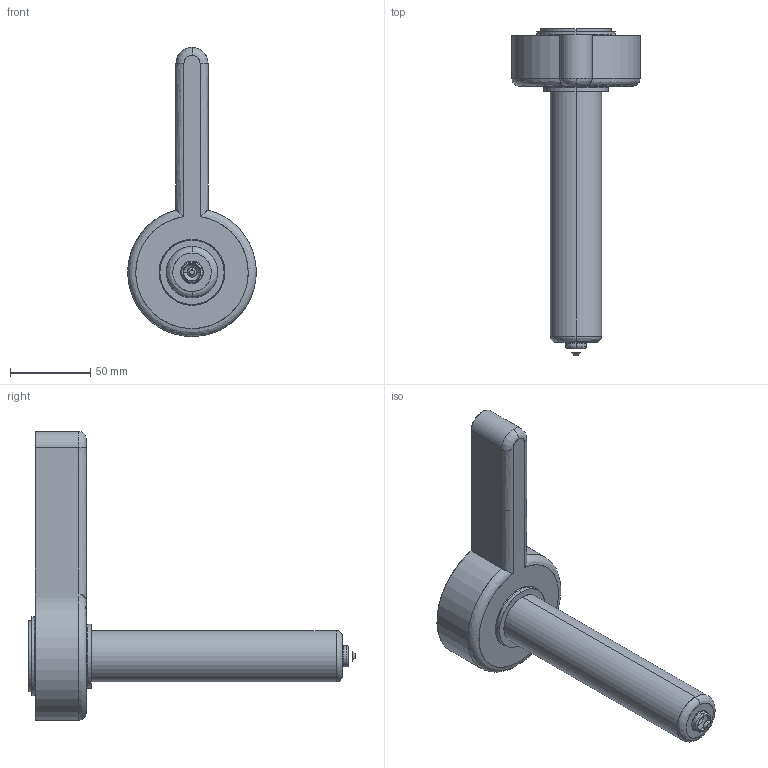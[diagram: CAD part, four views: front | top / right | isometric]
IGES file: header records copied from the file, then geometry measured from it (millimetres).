
Start section: SolidWorks IGES file using analytic representation for surfaces
Global section: file name: C:\Documents and Settings\ws-20\Desktop\TEM\Sede UGEP4504-S-A C-164 L-201 Ød-3.0.IGS; native system: SolidWorks 2012; preprocessor: SolidWorks 2012; author: ws-20; date: 120424.084028; units: millimetre
Bounding box: 79.96 x 203.42 x 180 mm (x, y, z)
Surface area: 43848.9 mm2 (no closed solid volume)
Topology: 0 solids, 0 shells, 44 faces, 952 edges, 952 vertices
Faces by surface type: revolution 27, bspline 17
